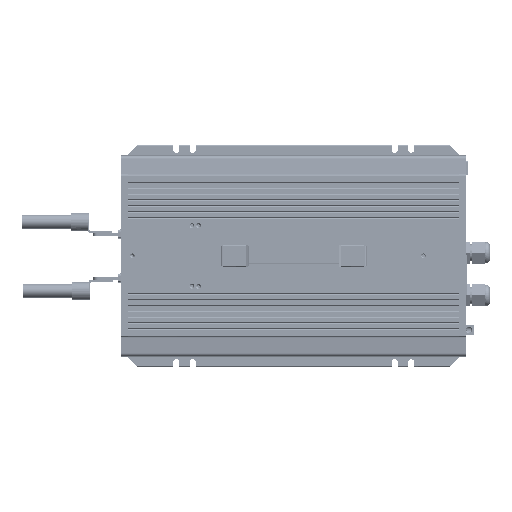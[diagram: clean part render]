
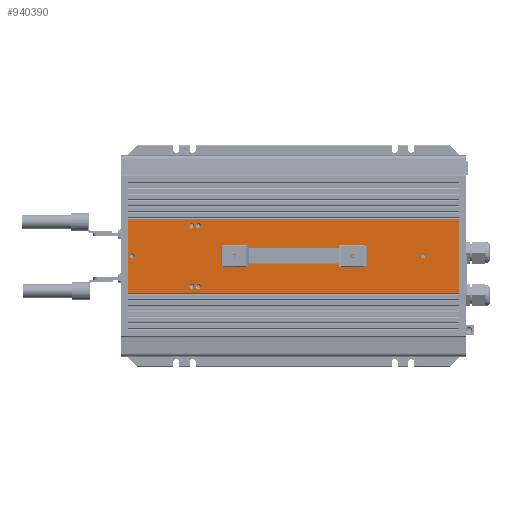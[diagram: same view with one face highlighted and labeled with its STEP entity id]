
A CAD part, top view. The second image highlights one B-rep face of the part: STEP entity #940390.
In plain terms, the highlighted planar face has unit normal (0, 0, 1) as drawn and (0, 1, 0) by its records, which use the part's own axes.
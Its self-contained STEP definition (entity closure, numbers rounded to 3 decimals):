
#917670=CARTESIAN_POINT('',(2078.449,98.104,-63.1));
#917680=VERTEX_POINT('',#917670);
#917710=CARTESIAN_POINT('',(1988.299,98.104,-63.1));
#917720=DIRECTION('',(1.,0.,0.));
#917730=VECTOR('',#917720,90.15);
#917740=LINE('',#917710,#917730);
#917750=CARTESIAN_POINT('',(1988.299,98.104,-63.1));
#917760=VERTEX_POINT('',#917750);
#917770=EDGE_CURVE('',#917760,#917680,#917740,.T.);
#926650=CARTESIAN_POINT('',(1988.299,98.104,340.9));
#926660=VERTEX_POINT('',#926650);
#926690=CARTESIAN_POINT('',(2078.449,98.104,340.9));
#926700=DIRECTION('',(-1.,0.,0.));
#926710=VECTOR('',#926700,90.15);
#926720=LINE('',#926690,#926710);
#926730=CARTESIAN_POINT('',(2078.449,98.104,340.9));
#926740=VERTEX_POINT('',#926730);
#926750=EDGE_CURVE('',#926740,#926660,#926720,.T.);
#938490=CARTESIAN_POINT('',(2030.374,98.104,296.9));
#938500=VERTEX_POINT('',#938490);
#938620=CARTESIAN_POINT('',(2036.374,98.104,296.9));
#938630=VERTEX_POINT('',#938620);
#938660=CARTESIAN_POINT('',(2033.374,98.104,296.9));
#938670=DIRECTION('',(0.,-1.,0.));
#938680=DIRECTION('',(1.,0.,0.));
#938690=AXIS2_PLACEMENT_3D('',#938660,#938670,#938680);
#938700=CIRCLE('',#938690,3.);
#938710=EDGE_CURVE('',#938630,#938500,#938700,.T.);
#939000=CARTESIAN_POINT('',(2028.721,98.104,122.9));
#939010=DIRECTION('',(0.,-1.,0.));
#939020=DIRECTION('',(1.,0.,0.));
#939030=AXIS2_PLACEMENT_3D('',#939000,#939010,#939020);
#939040=PLANE('',#939030);
#939050=CARTESIAN_POINT('',(2033.376,98.104,210.9));
#939060=DIRECTION('',(0.,1.,0.));
#939070=DIRECTION('',(0.,0.,1.));
#939080=AXIS2_PLACEMENT_3D('',#939050,#939060,#939070);
#939090=CIRCLE('',#939080,1.6);
#939100=CARTESIAN_POINT('',(2033.376,98.104,212.5));
#939110=VERTEX_POINT('',#939100);
#939120=CARTESIAN_POINT('',(2033.376,98.104,209.3));
#939130=VERTEX_POINT('',#939120);
#939140=EDGE_CURVE('',#939110,#939130,#939090,.T.);
#939150=ORIENTED_EDGE('',*,*,#939140,.F.);
#939160=EDGE_CURVE('',#939130,#939110,#939090,.T.);
#939170=ORIENTED_EDGE('',*,*,#939160,.F.);
#939180=EDGE_LOOP('',(#939170,#939150));
#939190=FACE_BOUND('',#939180,.T.);
#939200=CARTESIAN_POINT('',(1996.284,98.104,22.949)
);
#939210=DIRECTION('',(0.,1.,0.));
#939220=DIRECTION('',(1.,0.,0.));
#939230=AXIS2_PLACEMENT_3D('',#939200,#939210,#939220);
#939240=CIRCLE('',#939230,3.);
#939250=CARTESIAN_POINT('',(1996.284,98.104,19.949)
);
#939260=VERTEX_POINT('',#939250);
#939270=CARTESIAN_POINT('',(1993.284,98.104,22.949)
);
#939280=VERTEX_POINT('',#939270);
#939290=EDGE_CURVE('',#939260,#939280,#939240,.T.);
#939300=ORIENTED_EDGE('',*,*,#939290,.F.);
#939310=CARTESIAN_POINT('',(1999.284,98.104,22.949)
);
#939320=VERTEX_POINT('',#939310);
#939330=EDGE_CURVE('',#939280,#939320,#939240,.T.);
#939340=ORIENTED_EDGE('',*,*,#939330,.F.);
#939350=EDGE_CURVE('',#939320,#939260,#939240,.T.);
#939360=ORIENTED_EDGE('',*,*,#939350,.F.);
#939370=EDGE_LOOP('',(#939360,#939340,#939300));
#939380=FACE_BOUND('',#939370,.T.);
#939390=EDGE_CURVE('',#938500,#938630,#938700,.T.);
#939400=ORIENTED_EDGE('',*,*,#939390,.T.);
#939410=ORIENTED_EDGE('',*,*,#938710,.T.);
#939420=EDGE_LOOP('',(#939410,#939400));
#939430=FACE_BOUND('',#939420,.T.);
#939440=CARTESIAN_POINT('',(2033.376,98.104,-57.6));
#939450=DIRECTION('',(0.,-1.,0.));
#939460=DIRECTION('',(-1.,0.,0.));
#939470=AXIS2_PLACEMENT_3D('',#939440,#939450,#939460);
#939480=CIRCLE('',#939470,3.);
#939490=CARTESIAN_POINT('',(2030.376,98.104,
-57.6));
#939500=VERTEX_POINT('',#939490);
#939510=CARTESIAN_POINT('',(2036.376,98.104,
-57.6));
#939520=VERTEX_POINT('',#939510);
#939530=EDGE_CURVE('',#939500,#939520,#939480,.T.);
#939540=ORIENTED_EDGE('',*,*,#939530,.T.);
#939550=EDGE_CURVE('',#939520,#939500,#939480,.T.);
#939560=ORIENTED_EDGE('',*,*,#939550,.T.);
#939570=EDGE_LOOP('',(#939560,#939540));
#939580=FACE_BOUND('',#939570,.T.);
#939590=CARTESIAN_POINT('',(2070.318,98.104,14.949));
#939600=DIRECTION('',(0.,1.,0.));
#939610=DIRECTION('',(1.,0.,0.));
#939620=AXIS2_PLACEMENT_3D('',#939590,#939600,#939610);
#939630=CIRCLE('',#939620,3.);
#939640=CARTESIAN_POINT('',(2073.318,98.104,14.949));
#939650=VERTEX_POINT('',#939640);
#939660=CARTESIAN_POINT('',(2067.318,98.104,14.949));
#939670=VERTEX_POINT('',#939660);
#939680=EDGE_CURVE('',#939650,#939670,#939630,.T.);
#939690=ORIENTED_EDGE('',*,*,#939680,.F.);
#939700=EDGE_CURVE('',#939670,#939650,#939630,.T.);
#939710=ORIENTED_EDGE('',*,*,#939700,.F.);
#939720=EDGE_LOOP('',(#939710,#939690));
#939730=FACE_BOUND('',#939720,.T.);
#939740=CARTESIAN_POINT('',(1996.284,98.104,14.949)
);
#939750=DIRECTION('',(0.,1.,0.));
#939760=DIRECTION('',(1.,0.,0.));
#939770=AXIS2_PLACEMENT_3D('',#939740,#939750,#939760);
#939780=CIRCLE('',#939770,3.);
#939790=CARTESIAN_POINT('',(1995.513,98.104,12.05)
);
#939800=VERTEX_POINT('',#939790);
#939810=CARTESIAN_POINT('',(1993.284,98.104,14.949)
);
#939820=VERTEX_POINT('',#939810);
#939830=EDGE_CURVE('',#939800,#939820,#939780,.T.);
#939840=ORIENTED_EDGE('',*,*,#939830,.F.);
#939850=CARTESIAN_POINT('',(1999.284,98.104,14.949)
);
#939860=VERTEX_POINT('',#939850);
#939870=EDGE_CURVE('',#939820,#939860,#939780,.T.);
#939880=ORIENTED_EDGE('',*,*,#939870,.F.);
#939890=EDGE_CURVE('',#939860,#939800,#939780,.T.);
#939900=ORIENTED_EDGE('',*,*,#939890,.F.);
#939910=EDGE_LOOP('',(#939900,#939880,#939840));
#939920=FACE_BOUND('',#939910,.T.);
#939930=CARTESIAN_POINT('',(2070.318,98.104,22.949));
#939940=DIRECTION('',(0.,1.,0.));
#939950=DIRECTION('',(1.,0.,0.));
#939960=AXIS2_PLACEMENT_3D('',#939930,#939940,#939950);
#939970=CIRCLE('',#939960,3.);
#939980=CARTESIAN_POINT('',(2073.318,98.104,22.949));
#939990=VERTEX_POINT('',#939980);
#940000=CARTESIAN_POINT('',(2067.318,98.104,22.949));
#940010=VERTEX_POINT('',#940000);
#940020=EDGE_CURVE('',#939990,#940010,#939970,.T.);
#940030=ORIENTED_EDGE('',*,*,#940020,.F.);
#940040=EDGE_CURVE('',#940010,#939990,#939970,.T.);
#940050=ORIENTED_EDGE('',*,*,#940040,.F.);
#940060=EDGE_LOOP('',(#940050,#940030));
#940070=FACE_BOUND('',#940060,.T.);
#940080=CARTESIAN_POINT('',(2033.376,98.104,66.9));
#940090=DIRECTION('',(0.,1.,0.));
#940100=DIRECTION('',(0.,0.,1.));
#940110=AXIS2_PLACEMENT_3D('',#940080,#940090,#940100);
#940120=CIRCLE('',#940110,1.6);
#940130=CARTESIAN_POINT('',(2033.376,98.104,68.5));
#940140=VERTEX_POINT('',#940130);
#940150=CARTESIAN_POINT('',(2033.376,98.104,65.3));
#940160=VERTEX_POINT('',#940150);
#940170=EDGE_CURVE('',#940140,#940160,#940120,.T.);
#940180=ORIENTED_EDGE('',*,*,#940170,.F.);
#940190=EDGE_CURVE('',#940160,#940140,#940120,.T.);
#940200=ORIENTED_EDGE('',*,*,#940190,.F.);
#940210=EDGE_LOOP('',(#940200,#940180));
#940220=FACE_BOUND('',#940210,.T.);
#940230=ORIENTED_EDGE('',*,*,#917770,.F.);
#940240=CARTESIAN_POINT('',(2078.449,98.104,-63.1));
#940250=DIRECTION('',(0.,0.,1.));
#940260=VECTOR('',#940250,404.);
#940270=LINE('',#940240,#940260);
#940280=EDGE_CURVE('',#917680,#926740,#940270,.T.);
#940290=ORIENTED_EDGE('',*,*,#940280,.F.);
#940300=ORIENTED_EDGE('',*,*,#926750,.F.);
#940310=CARTESIAN_POINT('',(1988.299,98.104,340.9));
#940320=DIRECTION('',(0.,0.,-1.));
#940330=VECTOR('',#940320,404.);
#940340=LINE('',#940310,#940330);
#940350=EDGE_CURVE('',#926660,#917760,#940340,.T.);
#940360=ORIENTED_EDGE('',*,*,#940350,.F.);
#940370=EDGE_LOOP('',(#940360,#940300,#940290,#940230));
#940380=FACE_OUTER_BOUND('',#940370,.T.);
#940390=ADVANCED_FACE('',(#939190,#939380,#939430,#939580,#939730,
#939920,#940070,#940220,#940380),#939040,.F.);
